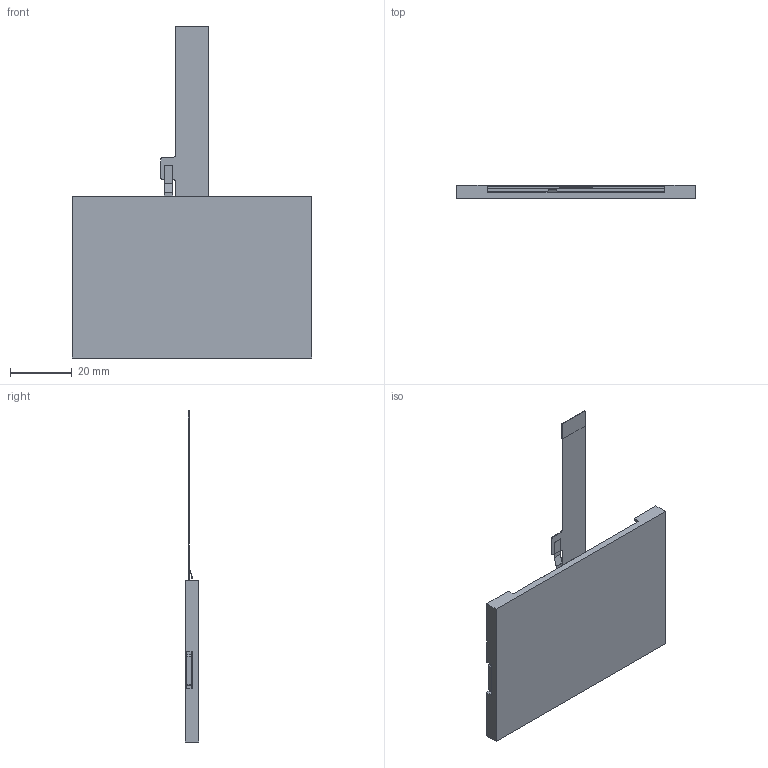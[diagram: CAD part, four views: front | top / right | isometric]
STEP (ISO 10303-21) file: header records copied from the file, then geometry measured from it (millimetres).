
FILE_DESCRIPTION (( 'STEP AP203' ), '1' );
FILE_NAME ('NHD-C0420BZ.STEP', '2026-02-16T22:08:12', ( '' ), ( '' ), 'SwSTEP 2.0', 'SolidWorks 2019', '' );
FILE_SCHEMA (( 'CONFIG_CONTROL_DESIGN' ));
Length unit declared in the file: millimetre
Products named in the file (1): NHD-C0420BZ
Bounding box: 77.4 x 4.3 x 107.4 mm (x, y, z)
Volume: 15418 mm3; surface area: 18885.3 mm2
Topology: 2 solids, 2 shells, 80 faces, 208 edges, 136 vertices
Faces by surface type: plane 72, cylinder 8
Entity records: 2479 total; most frequent: CARTESIAN_POINT 425, ORIENTED_EDGE 416, DIRECTION 386, EDGE_CURVE 208, VECTOR 192, LINE 192, VERTEX_POINT 136, AXIS2_PLACEMENT_3D 97
